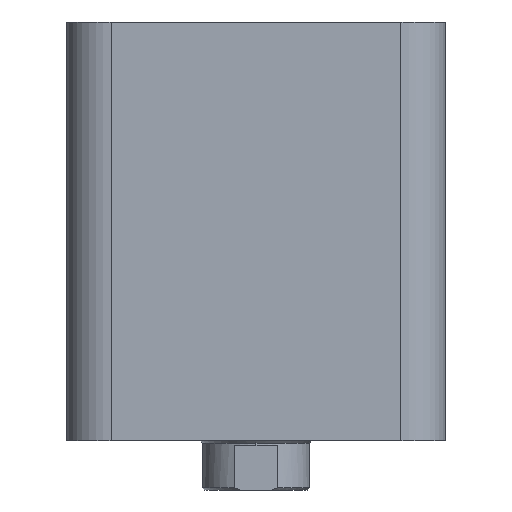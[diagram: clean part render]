
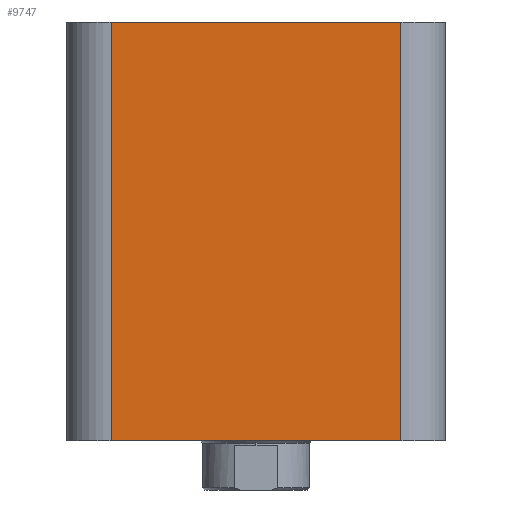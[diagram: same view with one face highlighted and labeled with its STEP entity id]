
A CAD part, left-side view. The second image highlights one B-rep face of the part: STEP entity #9747.
In plain terms, the highlighted planar face has unit normal (-1, 0, 0).
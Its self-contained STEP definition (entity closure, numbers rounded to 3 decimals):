
#135 = VERTEX_POINT ( 'NONE', #9796 ) ;
#2127 = VERTEX_POINT ( 'NONE', #11087 ) ;
#3345 = LINE ( 'NONE', #25538, #17181 ) ;
#3577 = LINE ( 'NONE', #17718, #5977 ) ;
#3600 = DIRECTION ( 'NONE',  ( 0., -1., 0. ) ) ;
#5977 = VECTOR ( 'NONE', #25778, 1000. ) ;
#6803 = AXIS2_PLACEMENT_3D ( 'NONE', #25550, #9437, #13155 ) ;
#8938 = EDGE_CURVE ( 'NONE', #19592, #25200, #3577, .T. ) ;
#9043 = FACE_OUTER_BOUND ( 'NONE', #24746, .T. ) ;
#9120 = EDGE_CURVE ( 'NONE', #2127, #19592, #13618, .T. ) ;
#9437 = DIRECTION ( 'NONE',  ( 1., 0., 0. ) ) ;
#9639 = DIRECTION ( 'NONE',  ( 0., 0., 1. ) ) ;
#9664 = ORIENTED_EDGE ( 'NONE', *, *, #14850, .F. ) ;
#9747 = ADVANCED_FACE ( 'NONE', ( #9043 ), #13020, .F. ) ;
#9777 = CARTESIAN_POINT ( 'NONE',  ( 0., 10., 94. ) ) ;
#9796 = CARTESIAN_POINT ( 'NONE',  ( 0., 10., 94. ) ) ;
#10703 = ORIENTED_EDGE ( 'NONE', *, *, #9120, .T. ) ;
#11087 = CARTESIAN_POINT ( 'NONE',  ( 0., 75., 94. ) ) ;
#11231 = EDGE_CURVE ( 'NONE', #25200, #135, #23391, .T. ) ;
#13020 = PLANE ( 'NONE',  #6803 ) ;
#13155 = DIRECTION ( 'NONE',  ( 0., 0., -1. ) ) ;
#13618 = LINE ( 'NONE', #21270, #24137 ) ;
#14850 = EDGE_CURVE ( 'NONE', #2127, #135, #3345, .T. ) ;
#16366 = ORIENTED_EDGE ( 'NONE', *, *, #8938, .T. ) ;
#17181 = VECTOR ( 'NONE', #3600, 1000. ) ;
#17718 = CARTESIAN_POINT ( 'NONE',  ( 0., 0., 0. ) ) ;
#19592 = VERTEX_POINT ( 'NONE', #24064 ) ;
#21270 = CARTESIAN_POINT ( 'NONE',  ( 0., 75., 94. ) ) ;
#21617 = VECTOR ( 'NONE', #9639, 1000. ) ;
#23176 = ORIENTED_EDGE ( 'NONE', *, *, #11231, .T. ) ;
#23391 = LINE ( 'NONE', #9777, #21617 ) ;
#24064 = CARTESIAN_POINT ( 'NONE',  ( 0., 75., 0. ) ) ;
#24137 = VECTOR ( 'NONE', #25222, 1000. ) ;
#24265 = CARTESIAN_POINT ( 'NONE',  ( 0., 10., 0. ) ) ;
#24746 = EDGE_LOOP ( 'NONE', ( #16366, #23176, #9664, #10703 ) ) ;
#25200 = VERTEX_POINT ( 'NONE', #24265 ) ;
#25222 = DIRECTION ( 'NONE',  ( 0., 0., -1. ) ) ;
#25538 = CARTESIAN_POINT ( 'NONE',  ( 0., 0., 94. ) ) ;
#25550 = CARTESIAN_POINT ( 'NONE',  ( 0., 0., 94. ) ) ;
#25778 = DIRECTION ( 'NONE',  ( 0., -1., 0. ) ) ;
